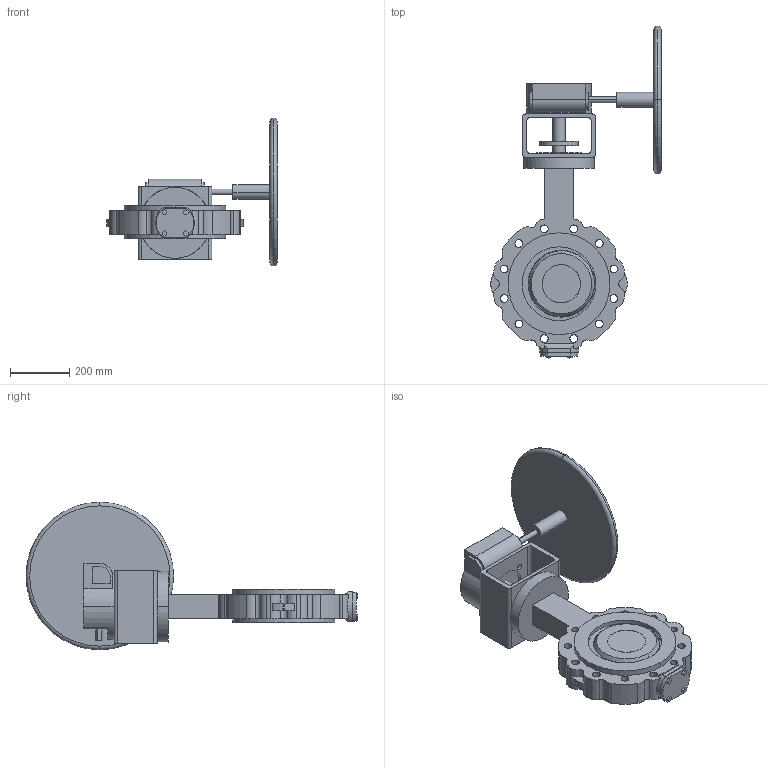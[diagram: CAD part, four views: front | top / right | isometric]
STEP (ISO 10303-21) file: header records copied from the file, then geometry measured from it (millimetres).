
FILE_DESCRIPTION( ( '' ), '1' );
FILE_NAME( 'F:/DE-SHS/TB/OR/04-Sonstiges/daten/Excel/mneugeba/018_ZETRIX-PN40_Getriebe-Rotork/c000006455.stp', '2016-09-19T06:42:35', ( '' ), ( '' ), ' ', ' ', ' ' );
FILE_SCHEMA( ( 'CONFIG_CONTROL_DESIGN' ) );
Length unit declared in the file: millimetre
Products named in the file (2): 1; 2
Bounding box: 577 x 1124.4 x 500 mm (x, y, z)
Volume: 27630285.5 mm3; surface area: 1807063.7 mm2
Topology: 2 solids, 2 shells, 311 faces, 834 edges, 556 vertices
Faces by surface type: cylinder 161, plane 138, sphere 4, cone 4, torus 4
Entity records: 10799 total; most frequent: CARTESIAN_POINT 2525, DIRECTION 1794, ORIENTED_EDGE 1668, EDGE_CURVE 834, AXIS2_PLACEMENT_3D 684, VERTEX_POINT 556, LINE 426, VECTOR 426
